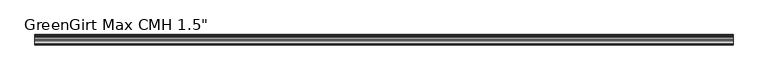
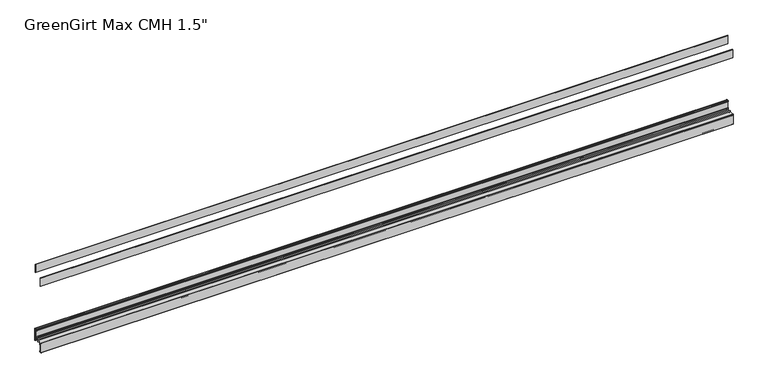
"""IFC4 building model written with IfcOpenShell, lengths in millimetres: fastener geometry."""

from ifc_helpers import new_model, si_unit, frame, origin, place, context, project, spatial, polyline, circle_curve, outline, extrude, source, transform, mapped, element, save
from ifc_brep_helpers import plane_surface, cylinder_surface, revolved_surface, advanced_brep


def fastener_8bfa3064(model_context):
    return source(origin(), model_context, "Body", "SolidModel", [
        extrude(outline(polyline([(2540.1186361, -3.556), (2540.1186361, -5.2832), (0.0, -5.2832), (0.0, -3.556), (2540.1186361, -3.556)])), frame((0.0, 0.0, 343.281), z_axis=(0.0, 0.0, 1.0), x_axis=(1.0, 0.0, 0.0)), (0.0, 0.0, 1.0), 30.988),
        extrude(outline(polyline([(2540.1186361, -33.7057766), (2540.1186361, -35.4329766), (0.0, -35.4329766), (0.0, -33.7057766), (2540.1186361, -33.7057766)])), frame((0.0, 0.0, 308.102), z_axis=(0.0, 0.0, 1.0), x_axis=(1.0, 0.0, 0.0)), (0.0, 0.0, 1.0), 30.988),
        advanced_brep(
        [(2540.1186361, -3.556, 120.269), (2540.1186361, -3.556, 89.281), (2540.1186361, -5.2832, 89.281), (2540.1186361, -5.2832, 93.472), (2540.1186361, -7.3152, 93.472), (2540.1186361, -7.3152, 89.281), (2540.1186361, -8.0772, 88.519), (2540.1186361, -17.7601563, 88.519), (2540.1186361, -17.7601563, 89.3674433), (2540.1186361, -20.4288947, 89.3674433), (2540.1186361, -20.4288947, 88.519), (2540.1186361, -37.3379766, 88.519), (2540.1186361, -38.0999766, 87.757), (2540.1186361, -38.1, 51.5196758), (2540.1186361, -37.3379766, 50.8), (2540.1186361, -33.7057766, 50.8), (2540.1186361, -31.6737766, 52.832), (2540.1186361, -31.6737766, 55.118), (2540.1186361, -33.7057766, 55.118), (2540.1186361, -33.7057766, 54.102), (2540.1186361, -35.4329766, 54.102), (2540.1186361, -35.4329766, 85.09), (2540.1186361, -33.7057766, 85.09), (2540.1186361, -33.7057766, 80.899), (2540.1186361, -31.6737766, 80.899), (2540.1186361, -31.6737766, 85.09), (2540.1186361, -30.9117766, 85.852), (2540.1186361, -20.4279799, 85.852), (2540.1186361, -20.4279799, 85.0030993), (2540.1186361, -17.7601563, 85.0030993), (2540.1186361, -17.7601563, 85.852), (2540.1186361, -3.429, 85.852), (2540.1186361, -2.667, 85.09), (2540.1186361, -2.667, 78.994), (2540.1186361, 0.0, 78.994), (2540.1186361, 0.0, 122.809), (2540.1186361, -0.762, 123.571), (2540.1186361, -5.2832, 123.571), (2540.1186361, -7.3152, 121.539), (2540.1186361, -7.3152, 119.253), (2540.1186361, -5.2832, 119.253), (2540.1186361, -5.2832, 120.269), (0.0, -3.556, 120.269), (0.0, -5.2832, 120.269), (0.0, -5.2832, 119.253), (0.0, -7.3152, 119.253), (0.0, -7.3152, 121.539), (0.0, -5.2832, 123.571), (0.0, -0.762, 123.571), (0.0, 0.0, 122.809), (0.0, 0.0, 78.994), (0.0, -2.667, 78.994), (0.0, -2.667, 85.09), (0.0, -3.429, 85.852), (0.0, -17.7601563, 85.852), (0.0, -17.7601563, 85.0030993), (0.0, -20.4279799, 85.0030993), (0.0, -20.4279799, 85.852), (0.0, -30.9117766, 85.852), (0.0, -31.6737766, 85.09), (0.0, -31.6737766, 80.899), (0.0, -33.7057766, 80.899), (0.0, -33.7057766, 85.09), (0.0, -35.4329766, 85.09), (0.0, -35.4329766, 54.102), (0.0, -33.7057766, 54.102), (0.0, -33.7057766, 55.118), (0.0, -31.6737766, 55.118), (0.0, -31.6737766, 52.832), (0.0, -33.7057766, 50.8), (0.0, -37.3379766, 50.8), (0.0, -38.0999766, 51.562), (0.0, -38.1, 87.6242174), (0.0, -37.3379766, 88.519), (0.0, -20.4288947, 88.519), (0.0, -20.4288947, 89.3674433), (0.0, -17.7601563, 89.3674433), (0.0, -17.7601563, 88.519), (0.0, -8.0772, 88.519), (0.0, -7.3152, 89.281), (0.0, -7.3152, 93.472), (0.0, -5.2832, 93.472), (0.0, -5.2832, 89.281), (0.0, -3.556, 89.281)],
        [
            (0, 1),
            (1, 2, circle_curve(frame((2540.1186361, -4.4196, 89.281), z_axis=(-1.0, 0.0, 0.0), x_axis=(0.0, 1.0, 0.0)), 0.8636)),
            (2, 3),
            (3, 4, circle_curve(frame((2540.1186361, -6.2992, 93.472), z_axis=(1.0, 0.0, 0.0), x_axis=(0.0, 1.0, 0.0)), 1.016)),
            (4, 5),
            (5, 6, circle_curve(frame((2540.1186361, -8.0772, 89.281), z_axis=(-1.0, 0.0, 0.0), x_axis=(0.0, 1.0, 0.0)), 0.762)),
            (6, 7),
            (7, 8),
            (8, 9, circle_curve(frame((2540.1186361, -19.0945255, 89.3674433), z_axis=(1.0, 0.0, 0.0), x_axis=(0.0, 1.0, 0.0)), 1.3343692)),
            (9, 10),
            (10, 11),
            (11, 12, circle_curve(frame((2540.1186361, -37.3379766, 87.757), z_axis=(1.0, 0.0, 0.0), x_axis=(0.0, 1.0, 0.0)), 0.762)),
            (12, 13),
            (13, 14, circle_curve(frame((2540.1186361, -37.3379766, 51.562), z_axis=(1.0, 0.0, 0.0), x_axis=(0.0, 1.0, 0.0)), 0.762)),
            (14, 15),
            (15, 16, circle_curve(frame((2540.1186361, -33.7057766, 52.832), z_axis=(1.0, 0.0, 0.0), x_axis=(0.0, 1.0, 0.0)), 2.032)),
            (16, 17),
            (17, 18, circle_curve(frame((2540.1186361, -32.6897766, 55.118), z_axis=(1.0, 0.0, 0.0), x_axis=(0.0, 1.0, 0.0)), 1.016)),
            (18, 19),
            (19, 20, circle_curve(frame((2540.1186361, -34.5693766, 54.102), z_axis=(-1.0, 0.0, 0.0), x_axis=(0.0, 1.0, 0.0)), 0.8636)),
            (20, 21),
            (21, 22, circle_curve(frame((2540.1186361, -34.5693766, 85.09), z_axis=(-1.0, 0.0, 0.0), x_axis=(0.0, 1.0, 0.0)), 0.8636)),
            (22, 23),
            (23, 24, circle_curve(frame((2540.1186361, -32.6897766, 80.899), z_axis=(1.0, 0.0, 0.0), x_axis=(0.0, 1.0, 0.0)), 1.016)),
            (24, 25),
            (25, 26, circle_curve(frame((2540.1186361, -30.9117766, 85.09), z_axis=(-1.0, 0.0, 0.0), x_axis=(0.0, 1.0, 0.0)), 0.762)),
            (26, 27),
            (27, 28),
            (28, 29, circle_curve(frame((2540.1186361, -19.0940681, 85.0030993), z_axis=(1.0, 0.0, 0.0), x_axis=(0.0, 1.0, 0.0)), 1.3339118)),
            (29, 30),
            (30, 31),
            (31, 32, circle_curve(frame((2540.1186361, -3.429, 85.09), z_axis=(-1.0, 0.0, 0.0), x_axis=(0.0, 1.0, 0.0)), 0.762)),
            (32, 33),
            (33, 34, circle_curve(frame((2540.1186361, -1.3335, 78.994), z_axis=(1.0, 0.0, 0.0), x_axis=(0.0, 1.0, 0.0)), 1.3335)),
            (34, 35),
            (35, 36, circle_curve(frame((2540.1186361, -0.762, 122.809), z_axis=(1.0, 0.0, 0.0), x_axis=(0.0, 1.0, 0.0)), 0.762)),
            (36, 37),
            (37, 38, circle_curve(frame((2540.1186361, -5.2832, 121.539), z_axis=(1.0, 0.0, 0.0), x_axis=(0.0, 1.0, 0.0)), 2.032)),
            (38, 39),
            (39, 40, circle_curve(frame((2540.1186361, -6.2992, 119.253), z_axis=(1.0, 0.0, 0.0), x_axis=(0.0, 1.0, 0.0)), 1.016)),
            (40, 41),
            (41, 0, circle_curve(frame((2540.1186361, -4.4196, 120.269), z_axis=(-1.0, 0.0, 0.0), x_axis=(0.0, 1.0, 0.0)), 0.8636)),
            (42, 43, circle_curve(frame((0.0, -4.4196, 120.269), z_axis=(1.0, 0.0, 0.0), x_axis=(0.0, 1.0, 0.0)), 0.8636)),
            (43, 44),
            (44, 45, circle_curve(frame((0.0, -6.2992, 119.253), z_axis=(-1.0, 0.0, 0.0), x_axis=(0.0, 1.0, 0.0)), 1.016)),
            (45, 46),
            (46, 47, circle_curve(frame((0.0, -5.2832, 121.539), z_axis=(-1.0, 0.0, 0.0), x_axis=(0.0, 1.0, 0.0)), 2.032)),
            (47, 48),
            (48, 49, circle_curve(frame((0.0, -0.762, 122.809), z_axis=(-1.0, 0.0, 0.0), x_axis=(0.0, 1.0, 0.0)), 0.762)),
            (49, 50),
            (50, 51, circle_curve(frame((0.0, -1.3335, 78.994), z_axis=(-1.0, 0.0, 0.0), x_axis=(0.0, 1.0, 0.0)), 1.3335)),
            (51, 52),
            (52, 53, circle_curve(frame((0.0, -3.429, 85.09), z_axis=(1.0, 0.0, 0.0), x_axis=(0.0, 1.0, 0.0)), 0.762)),
            (53, 54),
            (54, 55),
            (55, 56, circle_curve(frame((0.0, -19.0940681, 85.0030993), z_axis=(-1.0, 0.0, 0.0), x_axis=(0.0, 1.0, 0.0)), 1.3339118)),
            (56, 57),
            (57, 58),
            (58, 59, circle_curve(frame((0.0, -30.9117766, 85.09), z_axis=(1.0, 0.0, 0.0), x_axis=(0.0, 1.0, 0.0)), 0.762)),
            (59, 60),
            (60, 61, circle_curve(frame((0.0, -32.6897766, 80.899), z_axis=(-1.0, 0.0, 0.0), x_axis=(0.0, 1.0, 0.0)), 1.016)),
            (61, 62),
            (62, 63, circle_curve(frame((0.0, -34.5693766, 85.09), z_axis=(1.0, 0.0, 0.0), x_axis=(0.0, 1.0, 0.0)), 0.8636)),
            (63, 64),
            (64, 65, circle_curve(frame((0.0, -34.5693766, 54.102), z_axis=(1.0, 0.0, 0.0), x_axis=(0.0, 1.0, 0.0)), 0.8636)),
            (65, 66),
            (66, 67, circle_curve(frame((0.0, -32.6897766, 55.118), z_axis=(-1.0, 0.0, 0.0), x_axis=(0.0, 1.0, 0.0)), 1.016)),
            (67, 68),
            (68, 69, circle_curve(frame((0.0, -33.7057766, 52.832), z_axis=(-1.0, 0.0, 0.0), x_axis=(0.0, 1.0, 0.0)), 2.032)),
            (69, 70),
            (70, 71, circle_curve(frame((0.0, -37.3379766, 51.562), z_axis=(-1.0, 0.0, 0.0), x_axis=(0.0, 1.0, 0.0)), 0.762)),
            (71, 72),
            (72, 73, circle_curve(frame((0.0, -37.3379766, 87.757), z_axis=(-1.0, 0.0, 0.0), x_axis=(0.0, 1.0, 0.0)), 0.762)),
            (73, 74),
            (74, 75),
            (75, 76, circle_curve(frame((0.0, -19.0945255, 89.3674433), z_axis=(-1.0, 0.0, 0.0), x_axis=(0.0, 1.0, 0.0)), 1.3343692)),
            (76, 77),
            (77, 78),
            (78, 79, circle_curve(frame((0.0, -8.0772, 89.281), z_axis=(1.0, 0.0, 0.0), x_axis=(0.0, 1.0, 0.0)), 0.762)),
            (79, 80),
            (80, 81, circle_curve(frame((0.0, -6.2992, 93.472), z_axis=(-1.0, 0.0, 0.0), x_axis=(0.0, 1.0, 0.0)), 1.016)),
            (81, 82),
            (82, 83, circle_curve(frame((0.0, -4.4196, 89.281), z_axis=(1.0, 0.0, 0.0), x_axis=(0.0, 1.0, 0.0)), 0.8636)),
            (83, 42),
            (0, 42),
            (83, 1),
            (82, 2),
            (81, 3),
            (80, 4),
            (79, 5),
            (78, 6),
            (77, 7),
            (76, 8),
            (75, 9),
            (74, 10),
            (73, 11),
            (72, 12),
            (71, 13),
            (70, 14),
            (69, 15),
            (68, 16),
            (67, 17),
            (66, 18),
            (65, 19),
            (64, 20),
            (63, 21),
            (62, 22),
            (61, 23),
            (60, 24),
            (59, 25),
            (58, 26),
            (57, 27),
            (56, 28),
            (55, 29),
            (54, 30),
            (53, 31),
            (52, 32),
            (51, 33),
            (50, 34),
            (49, 35),
            (48, 36),
            (47, 37),
            (46, 38),
            (45, 39),
            (44, 40),
            (43, 41),
        ],
        [
            plane_surface(frame((2540.1186361, -3.556, 89.281), z_axis=(1.0, 0.0, 0.0), x_axis=(0.0, 0.0, -1.0))),
            plane_surface(frame((0.0, -3.556, 89.281), z_axis=(-1.0, 0.0, 0.0), x_axis=(0.0, 0.0, 1.0))),
            plane_surface(frame((2540.1186361, -3.556, 120.269), z_axis=(0.0, -1.0, 0.0), x_axis=(-1.0, 0.0, 0.0))),
            revolved_surface(polyline([(0.0, -3.556, 89.281), (2540.1186361, -3.556, 89.281)]), (0.0, -4.4196, 89.281), (-1.0, 0.0, 0.0)),
            plane_surface(frame((2540.1186361, -5.2832, 89.281), z_axis=(0.0, 1.0, 0.0), x_axis=(-1.0, 0.0, 0.0))),
            cylinder_surface(frame((0.0, -6.2992, 93.472), z_axis=(1.0, 0.0, 0.0), x_axis=(0.0, 1.0, 0.0)), 1.016),
            plane_surface(frame((2540.1186361, -7.3152, 93.472), z_axis=(0.0, -1.0, 0.0), x_axis=(-1.0, 0.0, 0.0))),
            revolved_surface(polyline([(0.0, -7.315199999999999, 89.281), (2540.1186361, -7.315199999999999, 89.281)]), (0.0, -8.0772, 89.281), (-1.0, 0.0, 0.0)),
            plane_surface(frame((2540.1186361, -8.0772, 88.519), z_axis=(0.0, 0.0, 1.0), x_axis=(-1.0, 0.0, 0.0))),
            plane_surface(frame((2540.1186361, -17.7601563, 88.519), z_axis=(0.0, 1.0, 0.0), x_axis=(-1.0, 0.0, 0.0))),
            cylinder_surface(frame((0.0, -19.0945255, 89.3674433), z_axis=(1.0, 0.0, 0.0), x_axis=(0.0, 1.0, 0.0)), 1.3343692),
            plane_surface(frame((2540.1186361, -20.4288947, 89.3674433), z_axis=(0.0, -1.0, 0.0), x_axis=(-1.0, 0.0, 0.0))),
            plane_surface(frame((2540.1186361, -20.4288947, 88.519), z_axis=(0.0, 0.0, 1.0), x_axis=(-1.0, 0.0, 0.0))),
            cylinder_surface(frame((0.0, -37.3379766, 87.757), z_axis=(1.0, 0.0, 0.0), x_axis=(0.0, 1.0, 0.0)), 0.762),
            plane_surface(frame((2540.1186361, -38.1, 87.6242174), z_axis=(0.0, -1.0, 0.0), x_axis=(-1.0, 0.0, 0.0))),
            cylinder_surface(frame((0.0, -37.3379766, 51.562), z_axis=(1.0, 0.0, 0.0), x_axis=(0.0, 1.0, 0.0)), 0.762),
            plane_surface(frame((2540.1186361, -37.3379766, 50.8), z_axis=(0.0, 1.080720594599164e-12, -1.0), x_axis=(-1.0, 0.0, 0.0))),
            cylinder_surface(frame((0.0, -33.7057766, 52.832), z_axis=(1.0, 0.0, 0.0), x_axis=(0.0, 1.0, 0.0)), 2.032),
            plane_surface(frame((2540.1186361, -31.6737766, 52.832), z_axis=(0.0, 1.0, 0.0), x_axis=(-1.0, 0.0, 0.0))),
            cylinder_surface(frame((0.0, -32.6897766, 55.118), z_axis=(1.0, 0.0, 0.0), x_axis=(0.0, 1.0, 0.0)), 1.016),
            plane_surface(frame((2540.1186361, -33.7057766, 55.118), z_axis=(0.0, -1.0, 0.0), x_axis=(-1.0, 0.0, 0.0))),
            revolved_surface(polyline([(0.0, -33.7057766, 54.102), (2540.1186361, -33.7057766, 54.102)]), (0.0, -34.5693766, 54.102), (-1.0, 0.0, 0.0)),
            plane_surface(frame((2540.1186361, -35.4329766, 54.102), z_axis=(0.0, 1.0, 0.0), x_axis=(-1.0, 0.0, 0.0))),
            revolved_surface(polyline([(0.0, -33.7057766, 85.09), (2540.1186361, -33.7057766, 85.09)]), (0.0, -34.5693766, 85.09), (-1.0, 0.0, 0.0)),
            plane_surface(frame((2540.1186361, -33.7057766, 85.09), z_axis=(0.0, -1.0, 0.0), x_axis=(-1.0, 0.0, 0.0))),
            cylinder_surface(frame((0.0, -32.6897766, 80.899), z_axis=(1.0, 0.0, 0.0), x_axis=(0.0, 1.0, 0.0)), 1.016),
            plane_surface(frame((2540.1186361, -31.6737766, 80.899), z_axis=(0.0, 1.0, 0.0), x_axis=(-1.0, 0.0, 0.0))),
            revolved_surface(polyline([(0.0, -30.1497766, 85.09), (2540.1186361, -30.1497766, 85.09)]), (0.0, -30.9117766, 85.09), (-1.0, 0.0, 0.0)),
            plane_surface(frame((2540.1186361, -30.9117766, 85.852), z_axis=(0.0, 0.0, -1.0), x_axis=(-1.0, 0.0, 0.0))),
            plane_surface(frame((2540.1186361, -20.4279799, 85.852), z_axis=(0.0, -1.0, 0.0), x_axis=(-1.0, 0.0, 0.0))),
            cylinder_surface(frame((0.0, -19.0940681, 85.0030993), z_axis=(1.0, 0.0, 0.0), x_axis=(0.0, 1.0, 0.0)), 1.3339118),
            plane_surface(frame((2540.1186361, -17.7601563, 85.0030993), z_axis=(0.0, 1.0, 0.0), x_axis=(-1.0, 0.0, 0.0))),
            plane_surface(frame((2540.1186361, -17.7601563, 85.852), z_axis=(0.0, 0.0, -1.0), x_axis=(-1.0, 0.0, 0.0))),
            revolved_surface(polyline([(0.0, -2.667, 85.09), (2540.1186361, -2.667, 85.09)]), (0.0, -3.429, 85.09), (-1.0, 0.0, 0.0)),
            plane_surface(frame((2540.1186361, -2.667, 85.09), z_axis=(0.0, -1.0, 0.0), x_axis=(-1.0, 0.0, 0.0))),
            cylinder_surface(frame((0.0, -1.3335, 78.994), z_axis=(1.0, 0.0, 0.0), x_axis=(0.0, 1.0, 0.0)), 1.3335),
            plane_surface(frame((2540.1186361, 0.0, 78.994), z_axis=(0.0, 1.0, 0.0), x_axis=(-1.0, 0.0, 0.0))),
            cylinder_surface(frame((0.0, -0.762, 122.809), z_axis=(1.0, 0.0, 0.0), x_axis=(0.0, 1.0, 0.0)), 0.762),
            plane_surface(frame((2540.1186361, -0.762, 123.571), z_axis=(0.0, 1.6915308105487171e-12, 1.0), x_axis=(-1.0, 0.0, 0.0))),
            cylinder_surface(frame((0.0, -5.2832, 121.539), z_axis=(1.0, 0.0, 0.0), x_axis=(0.0, 1.0, 0.0)), 2.032),
            plane_surface(frame((2540.1186361, -7.3152, 121.539), z_axis=(0.0, -1.0, 0.0), x_axis=(-1.0, 0.0, 0.0))),
            cylinder_surface(frame((0.0, -6.2992, 119.253), z_axis=(1.0, 0.0, 0.0), x_axis=(0.0, 1.0, 0.0)), 1.016),
            plane_surface(frame((2540.1186361, -5.2832, 119.253), z_axis=(0.0, 1.0, 0.0), x_axis=(-1.0, 0.0, 0.0))),
            revolved_surface(polyline([(0.0, -3.556, 120.269), (2540.1186361, -3.556, 120.269)]), (0.0, -4.4196, 120.269), (-1.0, 0.0, 0.0)),
        ],
        [
            (0, [[1, 2, 3, 4, 5, 6, 7, 8, 9, 10, 11, 12, 13, 14, 15, 16, 17, 18, 19, 20, 21, 22, 23, 24, 25, 26, 27, 28, 29, 30, 31, 32, 33, 34, 35, 36, 37, 38, 39, 40, 41, 42]]),
            (1, [[43, 44, 45, 46, 47, 48, 49, 50, 51, 52, 53, 54, 55, 56, 57, 58, 59, 60, 61, 62, 63, 64, 65, 66, 67, 68, 69, 70, 71, 72, 73, 74, 75, 76, 77, 78, 79, 80, 81, 82, 83, 84]]),
            (2, [[-1, 85, -84, 86]]),
            (3, [[-2, -86, -83, 87]]),
            (4, [[-3, -87, -82, 88]]),
            (5, [[-4, -88, -81, 89]]),
            (6, [[-5, -89, -80, 90]]),
            (7, [[-6, -90, -79, 91]]),
            (8, [[-7, -91, -78, 92]]),
            (9, [[-8, -92, -77, 93]]),
            (10, [[-9, -93, -76, 94]]),
            (11, [[-10, -94, -75, 95]]),
            (12, [[-11, -95, -74, 96]]),
            (13, [[-12, -96, -73, 97]]),
            (14, [[-13, -97, -72, 98]]),
            (15, [[-14, -98, -71, 99]]),
            (16, [[-15, -99, -70, 100]]),
            (17, [[-16, -100, -69, 101]]),
            (18, [[-17, -101, -68, 102]]),
            (19, [[-18, -102, -67, 103]]),
            (20, [[-19, -103, -66, 104]]),
            (21, [[-20, -104, -65, 105]]),
            (22, [[-21, -105, -64, 106]]),
            (23, [[-22, -106, -63, 107]]),
            (24, [[-23, -107, -62, 108]]),
            (25, [[-24, -108, -61, 109]]),
            (26, [[-25, -109, -60, 110]]),
            (27, [[-26, -110, -59, 111]]),
            (28, [[-27, -111, -58, 112]]),
            (29, [[-28, -112, -57, 113]]),
            (30, [[-29, -113, -56, 114]]),
            (31, [[-30, -114, -55, 115]]),
            (32, [[-31, -115, -54, 116]]),
            (33, [[-32, -116, -53, 117]]),
            (34, [[-33, -117, -52, 118]]),
            (35, [[-34, -118, -51, 119]]),
            (36, [[-35, -119, -50, 120]]),
            (37, [[-36, -120, -49, 121]]),
            (38, [[-37, -121, -48, 122]]),
            (39, [[-38, -122, -47, 123]]),
            (40, [[-39, -123, -46, 124]]),
            (41, [[-40, -124, -45, 125]]),
            (42, [[-41, -125, -44, 126]]),
            (43, [[-42, -126, -43, -85]]),
        ],
    ),
        extrude(outline(polyline([(2540.1186361, -3.556), (2540.1186361, -5.2832), (0.0, -5.2832), (0.0, -3.556), (2540.1186361, -3.556)])), frame((0.0, 0.0, 89.281), z_axis=(0.0, 0.0, 1.0), x_axis=(1.0, 0.0, 0.0)), (0.0, 0.0, 1.0), 30.988),
        extrude(outline(polyline([(2540.1186361, -33.7057766), (2540.1186361, -35.4329766), (0.0, -35.4329766), (0.0, -33.7057766), (2540.1186361, -33.7057766)])), frame((0.0, 0.0, 54.102), z_axis=(0.0, 0.0, 1.0), x_axis=(1.0, 0.0, 0.0)), (0.0, 0.0, 1.0), 30.988),
    ])


if __name__ == "__main__":
    model = new_model("IFC4")
    model_context = context("Model", 3, world=origin())
    ifc_project = project(units=[si_unit("LENGTHUNIT", "METRE", prefix="MILLI")], contexts=[model_context])
    site = spatial("IfcSite", under=ifc_project)
    building = spatial("IfcBuilding", under=site)
    placement = place(None, origin())
    fastener_shape = fastener_8bfa3064(model_context)
    element("IfcFastener", 1, ObjectType="Structural-Supporting-Components_Advanced-Architectural-Products_GreenGirt-Max-CMH-System : GreenGirt Max CMH 1.5\"", at=placement, inside=building, context=model_context, shape_type="MappedRepresentation", body=[
        mapped(fastener_shape, transform((0.0, 0.0, 0.0), x_axis=(1.0, 0.0, 0.0), y_axis=(0.0, 1.0, 0.0), z_axis=(0.0, 0.0, 1.0))),
    ])
    save(model, "model.ifc")
